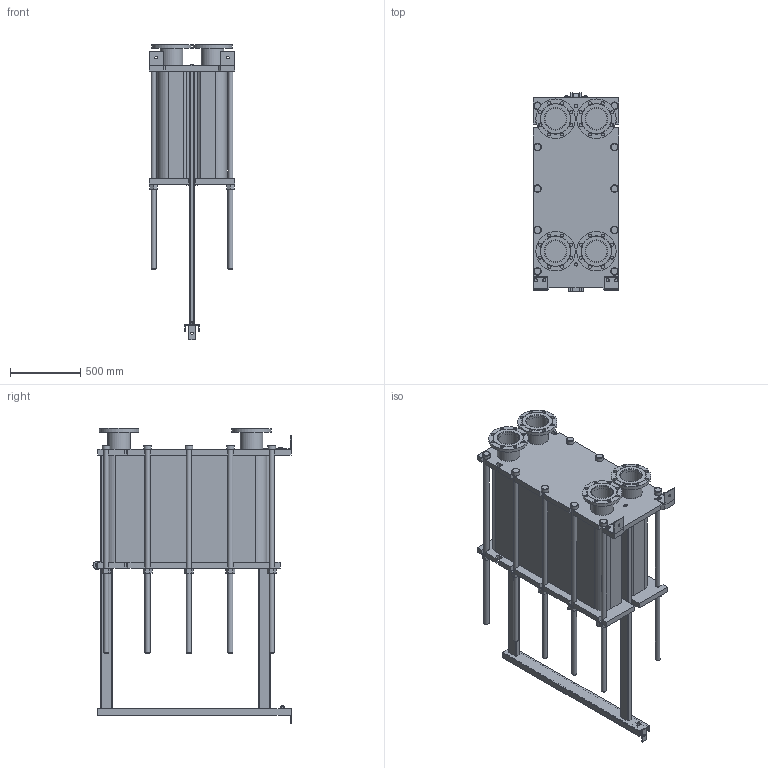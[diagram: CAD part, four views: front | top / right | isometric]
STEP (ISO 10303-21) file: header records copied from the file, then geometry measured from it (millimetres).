
FILE_DESCRIPTION(/* description */ (''),/* implementation_level */ '2;1');
FILE_NAME(/* name */ 'C:\Users\zhuro\Desktop\ENCO\TO\ЭН-041\ЭН-0,5-041-221-1.stp',/* time_stamp */ '2022-06-06T11:07:26+03:00',/* author */ ('zhuro'),/* organization */ (''),/* preprocessor_version */ 'ST-DEVELOPER v18.1',/* originating_system */ 'Autodesk Inventor 2022',/* authorisation */ '');
FILE_SCHEMA (('AUTOMOTIVE_DESIGN { 1 0 10303 214 3 1 1 }'));
Length unit declared in the file: millimetre
Products named in the file (1): ЭН-0,5-041-221-1
Bounding box: 610 x 1406.5 x 2097.5 mm (x, y, z)
Volume: 517806434.7 mm3; surface area: 11692461.9 mm2
Topology: 52 solids, 52 shells, 711 faces, 1696 edges, 1094 vertices
Faces by surface type: plane 487, cylinder 177, cone 41, torus 6
Full cylindrical faces by diameter (mm): 8 x4, 10 x2, 16 x8, 18 x3, 22 x32, 36 x24, 50 x1, 54 x10, 60 x12, 151 x4, 161 x8, 280 x4
Entity records: 22667 total; most frequent: CARTESIAN_POINT 5230, DIRECTION 3644, ORIENTED_EDGE 3392, EDGE_CURVE 1696, AXIS2_PLACEMENT_3D 1272, LINE 1100, VECTOR 1100, VERTEX_POINT 1094
